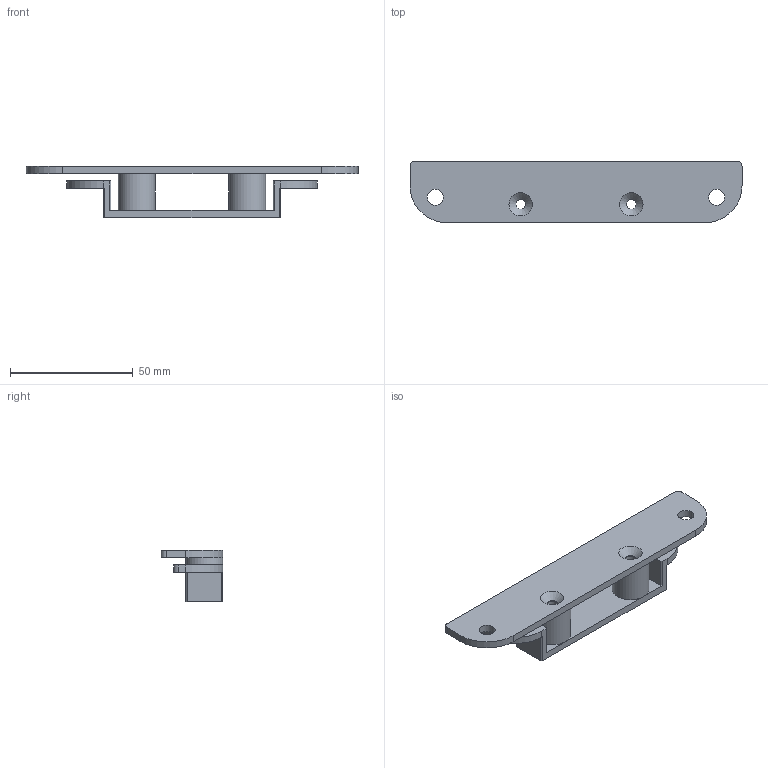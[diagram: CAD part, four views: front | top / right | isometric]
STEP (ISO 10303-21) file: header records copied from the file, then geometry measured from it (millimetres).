
FILE_DESCRIPTION(/* description */ (''),/* implementation_level */ '2;1');
FILE_NAME(/* name */ 'Gen2 Bracket export.step',/* time_stamp */ '2026-07-19T20:41:01+02:00',/* author */ (''),/* organization */ (''),/* preprocessor_version */ 'ST-DEVELOPER v20.1',/* originating_system */ 'Autodesk Translation Framework v15.8.0.0',/* authorisation */ '');
FILE_SCHEMA (('AUTOMOTIVE_DESIGN { 1 0 10303 214 3 1 1 }'));
Length unit declared in the file: millimetre
Products named in the file (4): 2026-07-19-20-36-54-935; GEN2 Bracket 1; GEN2 Braket 2; 2026-07-19-20-37-41-410
Assembly tree (3 placements, depth 2):
  2026-07-19-20-36-54-935
    GEN2 Bracket 1
    GEN2 Braket 2
    2026-07-19-20-37-41-410
Bounding box: 135 x 25 x 21 mm (x, y, z)
Volume: 19977.2 mm3; surface area: 14719.4 mm2
Topology: 4 solids, 4 shells, 58 faces, 146 edges, 96 vertices
Faces by surface type: plane 32, cylinder 22, cone 4
Full cylindrical faces by diameter (mm): 3.3 x2, 4 x6, 6.5 x2, 15 x2
Entity records: 1902 total; most frequent: DIRECTION 324, CARTESIAN_POINT 307, ORIENTED_EDGE 292, EDGE_CURVE 146, AXIS2_PLACEMENT_3D 113, LINE 98, VECTOR 98, VERTEX_POINT 96
